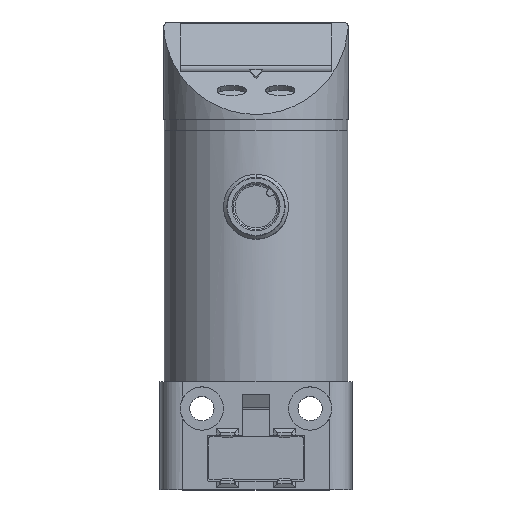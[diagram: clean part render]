
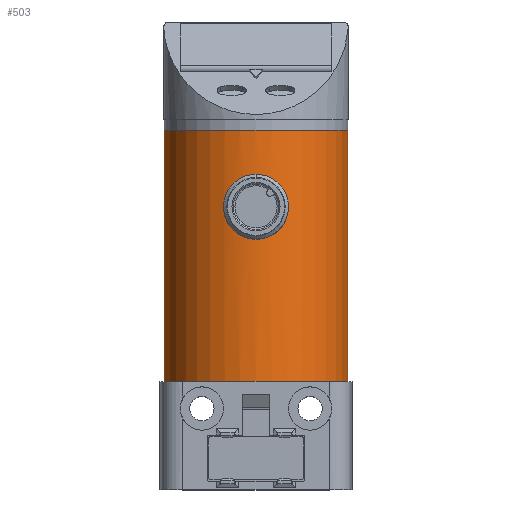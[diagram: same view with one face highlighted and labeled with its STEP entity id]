
A CAD part, top view. The second image highlights one B-rep face of the part: STEP entity #503.
In plain terms, the highlighted cylindrical face has radius 17 mm (diameter 34 mm), a partial arc.
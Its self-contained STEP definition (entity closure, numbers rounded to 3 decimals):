
#503 = ADVANCED_FACE( '', ( #1403, #1404 ), #1405, .T. );
#1403 = FACE_OUTER_BOUND( '', #2304, .T. );
#1404 = FACE_BOUND( '', #2305, .T. );
#1405 = CYLINDRICAL_SURFACE( '', #2306, 17. );
#2304 = EDGE_LOOP( '', ( #5894, #5895, #5896, #5897 ) );
#2305 = EDGE_LOOP( '', ( #5898, #5899, #5900 ) );
#2306 = AXIS2_PLACEMENT_3D( '', #5901, #5902, #5903 );
#5894 = ORIENTED_EDGE( '', *, *, #5904, .T. );
#5895 = ORIENTED_EDGE( '', *, *, #6956, .F. );
#5896 = ORIENTED_EDGE( '', *, *, #5906, .T. );
#5897 = ORIENTED_EDGE( '', *, *, #7058, .T. );
#5898 = ORIENTED_EDGE( '', *, *, #6007, .T. );
#5899 = ORIENTED_EDGE( '', *, *, #6968, .T. );
#5900 = ORIENTED_EDGE( '', *, *, #6008, .T. );
#5901 = CARTESIAN_POINT( '', ( 0., 43.25, 0. ) );
#5902 = DIRECTION( '', ( 0., 1., 0. ) );
#5903 = DIRECTION( '', ( -1., 0., 0. ) );
#5904 = EDGE_CURVE( '', #7059, #7060, #7061, .T. );
#5906 = EDGE_CURVE( '', #7064, #7062, #7065, .T. );
#6007 = EDGE_CURVE( '', #7254, #7252, #7255, .T. );
#6008 = EDGE_CURVE( '', #7256, #7254, #7257, .T. );
#6956 = EDGE_CURVE( '', #7064, #7060, #8827, .T. );
#6968 = EDGE_CURVE( '', #7252, #7256, #8844, .T. );
#7058 = EDGE_CURVE( '', #7062, #7059, #8972, .T. );
#7059 = VERTEX_POINT( '', #8973 );
#7060 = VERTEX_POINT( '', #8974 );
#7061 = LINE( '', #8975, #8976 );
#7062 = VERTEX_POINT( '', #8977 );
#7064 = VERTEX_POINT( '', #8979 );
#7065 = LINE( '', #8980, #8981 );
#7252 = VERTEX_POINT( '', #9379 );
#7254 = VERTEX_POINT( '', #9382 );
#7255 = B_SPLINE_CURVE_WITH_KNOTS( '', 3, ( #9383, #9384, #9385, #9386, #9387, #9388, #9389, #9390, #9391, #9392, #9393, #9394, #9395, #9396, #9397, #9398, #9399, #9400 ), .UNSPECIFIED., .F., .F., ( 4, 2, 2, 2, 2, 2, 2, 2, 4 ), ( 0., 1.141, 2.282, 3.423, 4.564, 5.705, 6.845, 7.986, 9.126 ), .UNSPECIFIED. );
#7256 = VERTEX_POINT( '', #9401 );
#7257 = B_SPLINE_CURVE_WITH_KNOTS( '', 3, ( #9402, #9403, #9404, #9405, #9406, #9407, #9408, #9409, #9410, #9411, #9412, #9413, #9414, #9415, #9416, #9417, #9418, #9419 ), .UNSPECIFIED., .F., .F., ( 4, 2, 2, 2, 2, 2, 2, 2, 4 ), ( 27.379, 28.519, 29.66, 30.8, 31.94, 33.082, 34.223, 35.364, 36.505 ), .UNSPECIFIED. );
#8827 = CIRCLE( '', #11896, 17. );
#8844 = B_SPLINE_CURVE_WITH_KNOTS( '', 3, ( #11928, #11929, #11930, #11931, #11932, #11933, #11934, #11935, #11936, #11937, #11938, #11939, #11940, #11941, #11942, #11943, #11944, #11945, #11946, #11947, #11948, #11949, #11950, #11951, #11952, #11953, #11954, #11955, #11956, #11957, #11958, #11959, #11960, #11961 ), .UNSPECIFIED., .F., .F., ( 4, 2, 2, 2, 2, 2, 2, 2, 2, 2, 2, 2, 2, 2, 2, 2, 4 ), ( 9.126, 10.267, 11.407, 12.548, 13.688, 14.829, 15.97, 17.111, 18.252, 19.394, 20.535, 21.676, 22.817, 23.957, 25.098, 26.238, 27.379 ), .UNSPECIFIED. );
#8972 = CIRCLE( '', #12198, 17. );
#8973 = CARTESIAN_POINT( '', ( -17., 66.5, 0. ) );
#8974 = CARTESIAN_POINT( '', ( -17., 20., 0. ) );
#8975 = CARTESIAN_POINT( '', ( -17., 43.25, 0. ) );
#8976 = VECTOR( '', #12199, 1. );
#8977 = CARTESIAN_POINT( '', ( 17., 66.5, 0. ) );
#8979 = CARTESIAN_POINT( '', ( 17., 20., 0. ) );
#8980 = CARTESIAN_POINT( '', ( 17., 43.25, 0. ) );
#8981 = VECTOR( '', #12203, 1. );
#9379 = CARTESIAN_POINT( '', ( 0., 58.3, 17. ) );
#9382 = CARTESIAN_POINT( '', ( -6., 52.3, 15.906 ) );
#9383 = CARTESIAN_POINT( '', ( -6., 52.3, 15.906 ) );
#9384 = CARTESIAN_POINT( '', ( -6., 52.68, 15.906 ) );
#9385 = CARTESIAN_POINT( '', ( -5.963, 53.073, 15.92 ) );
#9386 = CARTESIAN_POINT( '', ( -5.81, 53.85, 15.977 ) );
#9387 = CARTESIAN_POINT( '', ( -5.693, 54.236, 16.019 ) );
#9388 = CARTESIAN_POINT( '', ( -5.386, 54.974, 16.125 ) );
#9389 = CARTESIAN_POINT( '', ( -5.195, 55.327, 16.188 ) );
#9390 = CARTESIAN_POINT( '', ( -4.756, 55.979, 16.323 ) );
#9391 = CARTESIAN_POINT( '', ( -4.507, 56.278, 16.394 ) );
#9392 = CARTESIAN_POINT( '', ( -3.978, 56.807, 16.53 ) );
#9393 = CARTESIAN_POINT( '', ( -3.679, 57.056, 16.6 ) );
#9394 = CARTESIAN_POINT( '', ( -3.027, 57.495, 16.732 ) );
#9395 = CARTESIAN_POINT( '', ( -2.674, 57.686, 16.792 ) );
#9396 = CARTESIAN_POINT( '', ( -1.936, 57.993, 16.894 ) );
#9397 = CARTESIAN_POINT( '', ( -1.55, 58.11, 16.934 ) );
#9398 = CARTESIAN_POINT( '', ( -0.772, 58.263, 16.987 ) );
#9399 = CARTESIAN_POINT( '', ( -0.38, 58.3, 17. ) );
#9400 = CARTESIAN_POINT( '', ( 0., 58.3, 17. ) );
#9401 = CARTESIAN_POINT( '', ( 0., 46.3, 17. ) );
#9402 = CARTESIAN_POINT( '', ( 0., 46.3, 17. ) );
#9403 = CARTESIAN_POINT( '', ( -0.38, 46.3, 17. ) );
#9404 = CARTESIAN_POINT( '', ( -0.772, 46.337, 16.987 ) );
#9405 = CARTESIAN_POINT( '', ( -1.55, 46.49, 16.934 ) );
#9406 = CARTESIAN_POINT( '', ( -1.936, 46.607, 16.894 ) );
#9407 = CARTESIAN_POINT( '', ( -2.674, 46.914, 16.792 ) );
#9408 = CARTESIAN_POINT( '', ( -3.027, 47.105, 16.732 ) );
#9409 = CARTESIAN_POINT( '', ( -3.679, 47.544, 16.6 ) );
#9410 = CARTESIAN_POINT( '', ( -3.978, 47.793, 16.53 ) );
#9411 = CARTESIAN_POINT( '', ( -4.507, 48.322, 16.394 ) );
#9412 = CARTESIAN_POINT( '', ( -4.756, 48.621, 16.323 ) );
#9413 = CARTESIAN_POINT( '', ( -5.195, 49.273, 16.188 ) );
#9414 = CARTESIAN_POINT( '', ( -5.386, 49.626, 16.125 ) );
#9415 = CARTESIAN_POINT( '', ( -5.693, 50.364, 16.019 ) );
#9416 = CARTESIAN_POINT( '', ( -5.81, 50.75, 15.977 ) );
#9417 = CARTESIAN_POINT( '', ( -5.963, 51.527, 15.92 ) );
#9418 = CARTESIAN_POINT( '', ( -6., 51.92, 15.906 ) );
#9419 = CARTESIAN_POINT( '', ( -6., 52.3, 15.906 ) );
#11896 = AXIS2_PLACEMENT_3D( '', #14048, #14049, #14050 );
#11928 = CARTESIAN_POINT( '', ( 0., 58.3, 17. ) );
#11929 = CARTESIAN_POINT( '', ( 0.38, 58.3, 17. ) );
#11930 = CARTESIAN_POINT( '', ( 0.772, 58.263, 16.987 ) );
#11931 = CARTESIAN_POINT( '', ( 1.55, 58.11, 16.934 ) );
#11932 = CARTESIAN_POINT( '', ( 1.936, 57.993, 16.894 ) );
#11933 = CARTESIAN_POINT( '', ( 2.674, 57.686, 16.792 ) );
#11934 = CARTESIAN_POINT( '', ( 3.027, 57.495, 16.732 ) );
#11935 = CARTESIAN_POINT( '', ( 3.679, 57.056, 16.6 ) );
#11936 = CARTESIAN_POINT( '', ( 3.978, 56.807, 16.53 ) );
#11937 = CARTESIAN_POINT( '', ( 4.507, 56.278, 16.394 ) );
#11938 = CARTESIAN_POINT( '', ( 4.756, 55.979, 16.323 ) );
#11939 = CARTESIAN_POINT( '', ( 5.195, 55.327, 16.188 ) );
#11940 = CARTESIAN_POINT( '', ( 5.386, 54.974, 16.125 ) );
#11941 = CARTESIAN_POINT( '', ( 5.693, 54.236, 16.019 ) );
#11942 = CARTESIAN_POINT( '', ( 5.81, 53.85, 15.977 ) );
#11943 = CARTESIAN_POINT( '', ( 5.963, 53.073, 15.92 ) );
#11944 = CARTESIAN_POINT( '', ( 6., 52.68, 15.906 ) );
#11945 = CARTESIAN_POINT( '', ( 6., 51.92, 15.906 ) );
#11946 = CARTESIAN_POINT( '', ( 5.963, 51.527, 15.92 ) );
#11947 = CARTESIAN_POINT( '', ( 5.81, 50.75, 15.977 ) );
#11948 = CARTESIAN_POINT( '', ( 5.693, 50.364, 16.019 ) );
#11949 = CARTESIAN_POINT( '', ( 5.386, 49.626, 16.125 ) );
#11950 = CARTESIAN_POINT( '', ( 5.195, 49.273, 16.188 ) );
#11951 = CARTESIAN_POINT( '', ( 4.756, 48.621, 16.323 ) );
#11952 = CARTESIAN_POINT( '', ( 4.507, 48.322, 16.394 ) );
#11953 = CARTESIAN_POINT( '', ( 3.978, 47.793, 16.53 ) );
#11954 = CARTESIAN_POINT( '', ( 3.679, 47.544, 16.6 ) );
#11955 = CARTESIAN_POINT( '', ( 3.027, 47.105, 16.732 ) );
#11956 = CARTESIAN_POINT( '', ( 2.674, 46.914, 16.792 ) );
#11957 = CARTESIAN_POINT( '', ( 1.936, 46.607, 16.894 ) );
#11958 = CARTESIAN_POINT( '', ( 1.55, 46.49, 16.934 ) );
#11959 = CARTESIAN_POINT( '', ( 0.772, 46.337, 16.987 ) );
#11960 = CARTESIAN_POINT( '', ( 0.38, 46.3, 17. ) );
#11961 = CARTESIAN_POINT( '', ( 0., 46.3, 17. ) );
#12198 = AXIS2_PLACEMENT_3D( '', #14248, #14249, #14250 );
#12199 = DIRECTION( '', ( 0., -1., 0. ) );
#12203 = DIRECTION( '', ( 0., 1., 0. ) );
#14048 = CARTESIAN_POINT( '', ( 0., 20., 0. ) );
#14049 = DIRECTION( '', ( 0., -1., 0. ) );
#14050 = DIRECTION( '', ( -1., 0., 0. ) );
#14248 = CARTESIAN_POINT( '', ( 0., 66.5, 0. ) );
#14249 = DIRECTION( '', ( 0., -1., 0. ) );
#14250 = DIRECTION( '', ( -1., 0., 0. ) );
